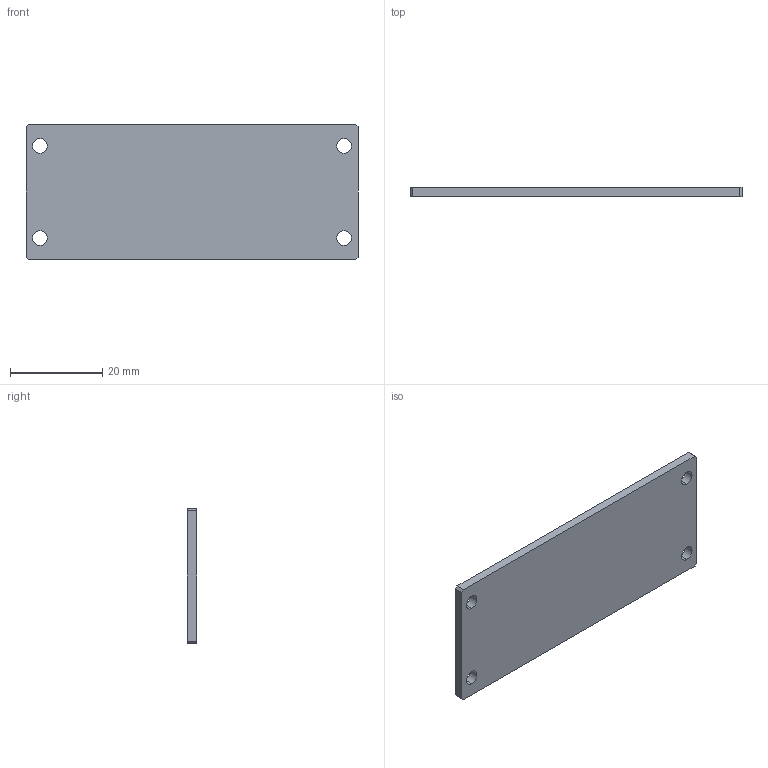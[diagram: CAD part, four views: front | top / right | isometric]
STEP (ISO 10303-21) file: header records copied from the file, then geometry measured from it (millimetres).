
FILE_DESCRIPTION (( 'STEP AP214' ), '1' );
FILE_NAME ('MLBX2-00-060-2-DIFFUSER.STEP', '2021-11-05T07:13:20', ( '' ), ( '' ), 'SwSTEP 2.0', 'SolidWorks 2021', '' );
FILE_SCHEMA (( 'AUTOMOTIVE_DESIGN' ));
Length unit declared in the file: millimetre
Products named in the file (1): MLBX2-00-060-2-DIFFUSER
Bounding box: 72 x 2 x 29.2 mm (x, y, z)
Volume: 4139.5 mm3; surface area: 4622.3 mm2
Topology: 1 solids, 1 shells, 18 faces, 48 edges, 32 vertices
Faces by surface type: plane 10, cylinder 8
Entity records: 618 total; most frequent: DIRECTION 102, CARTESIAN_POINT 99, ORIENTED_EDGE 96, EDGE_CURVE 48, AXIS2_PLACEMENT_3D 35, VERTEX_POINT 32, VECTOR 32, LINE 32
